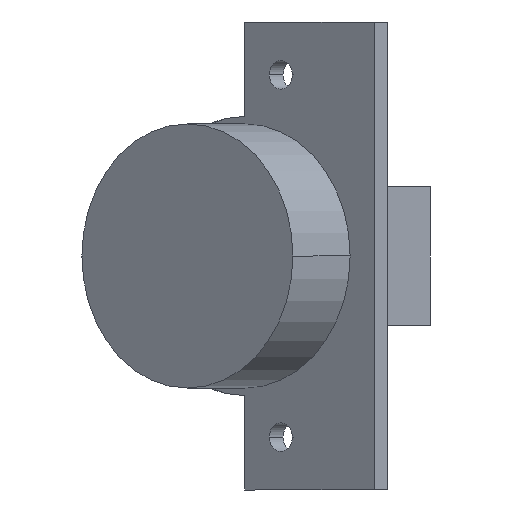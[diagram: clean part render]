
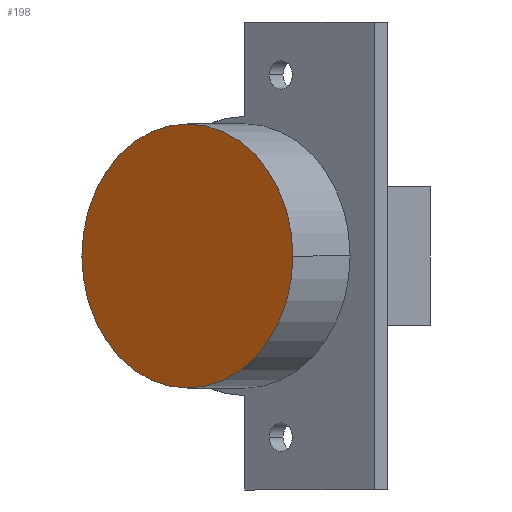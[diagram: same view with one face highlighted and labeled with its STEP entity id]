
A CAD part, front view. The second image highlights one B-rep face of the part: STEP entity #198.
In plain terms, the highlighted planar face has unit normal (-0.602, -0.799, 0).
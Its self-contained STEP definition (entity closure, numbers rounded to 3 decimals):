
#21 = VERTEX_POINT ( 'NONE', #95 ) ;
#38 = VERTEX_POINT ( 'NONE', #112 ) ;
#95 = CARTESIAN_POINT ( 'NONE',  ( 25.393, -20.595, 0. ) ) ;
#112 = CARTESIAN_POINT ( 'NONE',  ( -2.559, 0.469, 0. ) ) ;
#198 = ADVANCED_FACE ( 'NONE', ( #594 ), #981, .T. ) ;
#385 = ORIENTED_EDGE ( 'NONE', *, *, #1498, .T. ) ;
#386 = ORIENTED_EDGE ( 'NONE', *, *, #1462, .T. ) ;
#534 = EDGE_LOOP ( 'NONE', ( #386, #385 ) ) ;
#594 = FACE_OUTER_BOUND ( 'NONE', #534, .T. ) ;
#726 = CIRCLE ( 'NONE', #1409, 17.5 ) ;
#789 = CIRCLE ( 'NONE', #1611, 17.5 ) ;
#981 = PLANE ( 'NONE',  #1580 ) ;
#984 = CARTESIAN_POINT ( 'NONE',  ( 11.417, -10.063, 0. ) ) ;
#990 = DIRECTION ( 'NONE',  ( -0.602, -0.799, 0. ) ) ;
#991 = DIRECTION ( 'NONE',  ( 0.799, -0.602, 0. ) ) ;
#1173 = CARTESIAN_POINT ( 'NONE',  ( 11.417, -10.063, 0. ) ) ;
#1175 = DIRECTION ( 'NONE',  ( -0.602, -0.799, 0. ) ) ;
#1176 = DIRECTION ( 'NONE',  ( 0.799, -0.602, 0. ) ) ;
#1251 = CARTESIAN_POINT ( 'NONE',  ( 11.417, -10.063, 0. ) ) ;
#1255 = DIRECTION ( 'NONE',  ( -0.602, -0.799, 0. ) ) ;
#1256 = DIRECTION ( 'NONE',  ( 0.799, -0.602, 0. ) ) ;
#1409 = AXIS2_PLACEMENT_3D ( 'NONE', #1173, #1175, #1176 ) ;
#1462 = EDGE_CURVE ( 'NONE', #38, #21, #726, .T. ) ;
#1498 = EDGE_CURVE ( 'NONE', #21, #38, #789, .T. ) ;
#1580 = AXIS2_PLACEMENT_3D ( 'NONE', #984, #990, #991 ) ;
#1611 = AXIS2_PLACEMENT_3D ( 'NONE', #1251, #1255, #1256 ) ;
